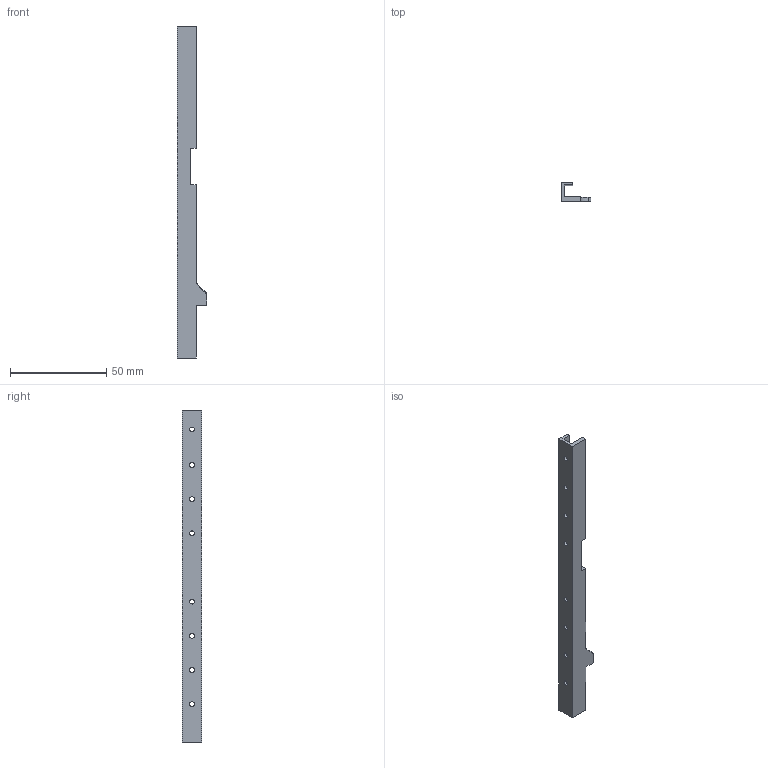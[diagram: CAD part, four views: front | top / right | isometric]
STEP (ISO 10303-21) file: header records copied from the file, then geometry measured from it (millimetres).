
FILE_DESCRIPTION(/* description */ (''),/* implementation_level */ '2;1');
FILE_NAME(/* name */ 'D:\Downloads\Plastikov-v1-3\STEP\Plastikov Left Rail Milled Spec.stp',/* time_stamp */ '2020-05-01T17:16:09-05:00',/* author */ ('johne'),/* organization */ (''),/* preprocessor_version */ 'ST-DEVELOPER v18',/* originating_system */ 'Autodesk Inventor 2020',/* authorisation */ '');
FILE_SCHEMA (('AUTOMOTIVE_DESIGN { 1 0 10303 214 3 1 1 }'));
Length unit declared in the file: inch
Products named in the file (1): Plastikov v1.0 Left Rail
Bounding box: 15.44 x 10 x 172.77 mm (x, y, z)
Volume: 7170.7 mm3; surface area: 8578.1 mm2
Topology: 1 solids, 1 shells, 30 faces, 90 edges, 62 vertices
Faces by surface type: plane 18, cylinder 10, cone 2
Full cylindrical faces by diameter (mm): 2.5 x8
Entity records: 1106 total; most frequent: CARTESIAN_POINT 185, DIRECTION 181, ORIENTED_EDGE 180, EDGE_CURVE 90, VERTEX_POINT 62, AXIS2_PLACEMENT_3D 61, LINE 59, VECTOR 59
